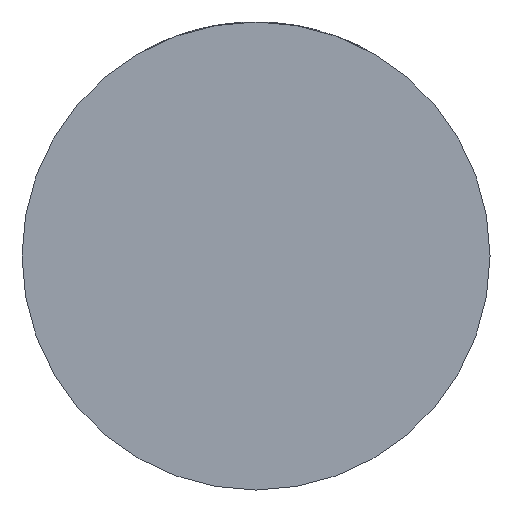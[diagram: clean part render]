
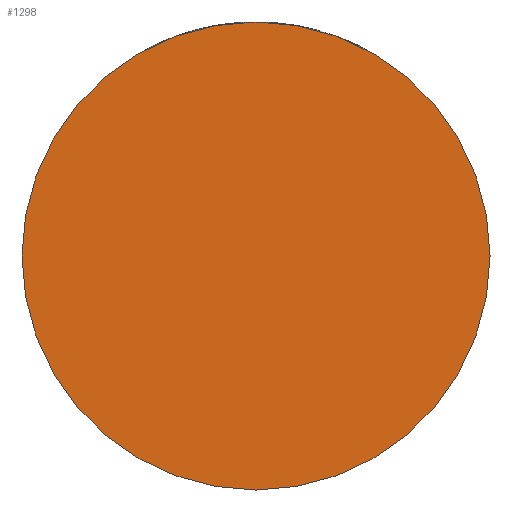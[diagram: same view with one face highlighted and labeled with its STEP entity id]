
A CAD part, front view. The second image highlights one B-rep face of the part: STEP entity #1298.
In plain terms, the highlighted planar face has unit normal (0, -1, 0).
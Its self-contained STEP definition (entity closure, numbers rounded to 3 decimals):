
#180 = CARTESIAN_POINT ( 'NONE',  ( 0., -36., 0. ) ) ;
#221 = VERTEX_POINT ( 'NONE', #2246 ) ;
#236 = CARTESIAN_POINT ( 'NONE',  ( -39., -36., 0. ) ) ;
#283 = CARTESIAN_POINT ( 'NONE',  ( 0., -36., 0. ) ) ;
#294 = ORIENTED_EDGE ( 'NONE', *, *, #3174, .T. ) ;
#645 = PLANE ( 'NONE',  #1393 ) ;
#1114 = DIRECTION ( 'NONE',  ( 0., -1., 0. ) ) ;
#1263 = AXIS2_PLACEMENT_3D ( 'NONE', #180, #3698, #1296 ) ;
#1296 = DIRECTION ( 'NONE',  ( 1., 0., 0. ) ) ;
#1298 = ADVANCED_FACE ( 'NONE', ( #2404 ), #645, .T. ) ;
#1381 = DIRECTION ( 'NONE',  ( 0., -1., 0. ) ) ;
#1393 = AXIS2_PLACEMENT_3D ( 'NONE', #283, #1381, #4153 ) ;
#1574 = DIRECTION ( 'NONE',  ( 1., 0., 0. ) ) ;
#2175 = VERTEX_POINT ( 'NONE', #236 ) ;
#2246 = CARTESIAN_POINT ( 'NONE',  ( 39., -36., 0. ) ) ;
#2404 = FACE_OUTER_BOUND ( 'NONE', #2886, .T. ) ;
#2762 = EDGE_CURVE ( 'NONE', #2175, #221, #4023, .T. ) ;
#2886 = EDGE_LOOP ( 'NONE', ( #3773, #294 ) ) ;
#3174 = EDGE_CURVE ( 'NONE', #221, #2175, #3213, .T. ) ;
#3213 = CIRCLE ( 'NONE', #1263, 39. ) ;
#3297 = AXIS2_PLACEMENT_3D ( 'NONE', #3341, #1114, #1574 ) ;
#3341 = CARTESIAN_POINT ( 'NONE',  ( 0., -36., 0. ) ) ;
#3698 = DIRECTION ( 'NONE',  ( 0., -1., 0. ) ) ;
#3773 = ORIENTED_EDGE ( 'NONE', *, *, #2762, .T. ) ;
#4023 = CIRCLE ( 'NONE', #3297, 39. ) ;
#4153 = DIRECTION ( 'NONE',  ( 1., 0., 0. ) ) ;
